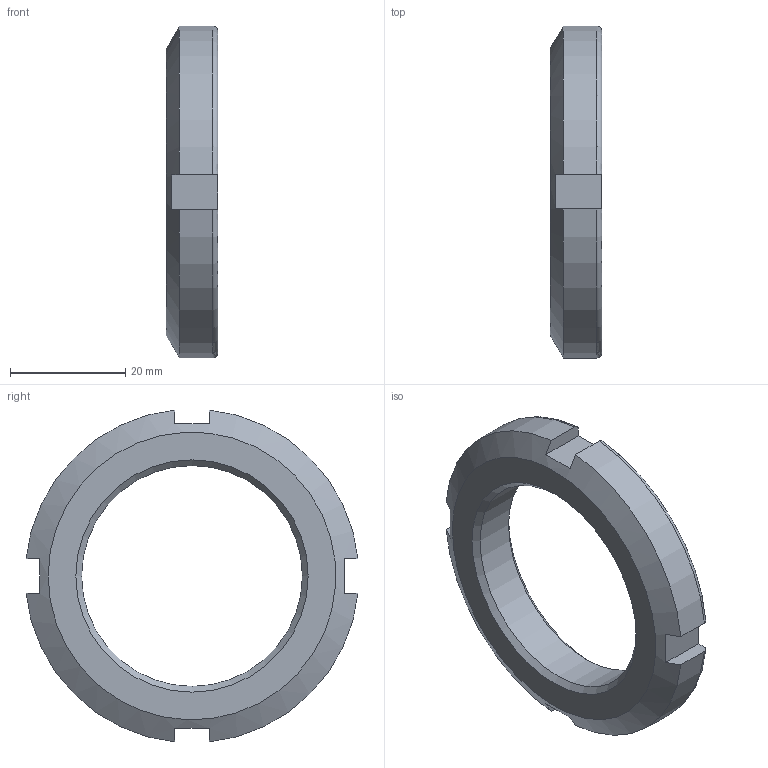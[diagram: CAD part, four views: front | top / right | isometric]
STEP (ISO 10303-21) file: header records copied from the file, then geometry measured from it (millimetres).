
FILE_DESCRIPTION(/* description */ ('Locknuts and locking devices-Dimensions - Locknuts(4 slots)'),/* implementation_level */ '2;1');
FILE_NAME(/* name */ 'D:\lock nut\LOCK NUT ISO 2982-2 - M40 x 1,5 x 50.stp',/* time_stamp */ '2022-04-01T13:49:08+07:00',/* author */ ('USER'),/* organization */ (''),/* preprocessor_version */ 'ST-DEVELOPER v16.1',/* originating_system */ 'Autodesk Inventor 2016',/* authorisation */ '');
FILE_SCHEMA (('AUTOMOTIVE_DESIGN { 1 0 10303 214 3 1 1 }'));
Length unit declared in the file: millimetre
Products named in the file (1): LOCK NUT ISO 2982-2 - M40 x 1,5 x 50
Bounding box: 9 x 57.69 x 57.69 mm (x, y, z)
Volume: 11981.3 mm3; surface area: 5223.5 mm2
Topology: 1 solids, 1 shells, 26 faces, 72 edges, 48 vertices
Faces by surface type: plane 14, cylinder 5, torus 4, cone 3
Full cylindrical faces by diameter (mm): 38.376 x1
Entity records: 858 total; most frequent: CARTESIAN_POINT 233, ORIENTED_EDGE 130, DIRECTION 116, EDGE_CURVE 65, VERTEX_POINT 45, AXIS2_PLACEMENT_3D 44, EDGE_LOOP 32, LINE 28
